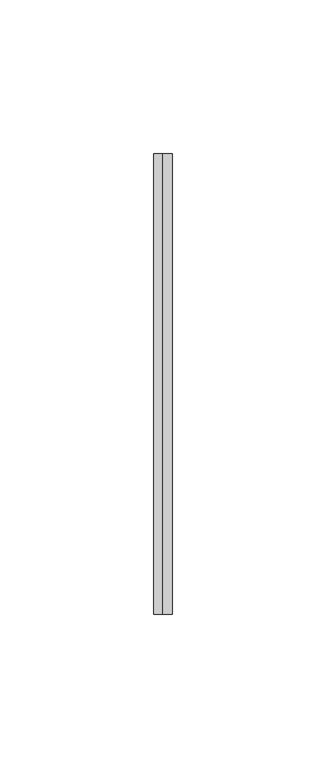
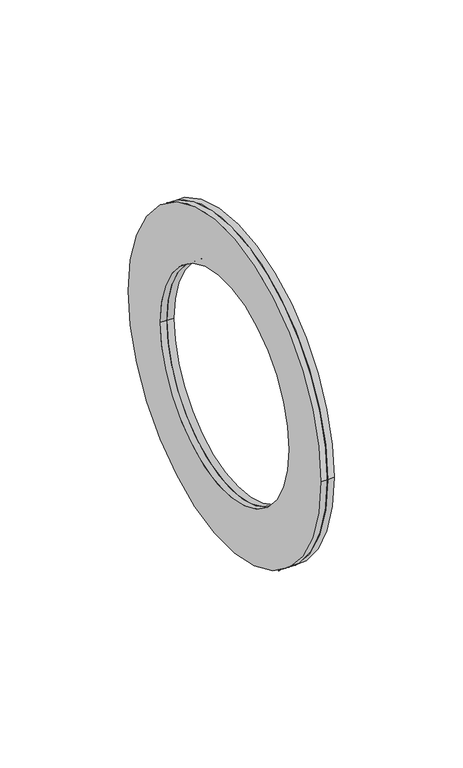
"""IFC4 building model written with IfcOpenShell, lengths in millimetres: duct fitting geometry, BL_ФланецВоздуховдов-Двойной_Круглый_БезКоннекторов : BL_ФланецВоздуховдов-Двойной_Круглый_БезКоннекторов."""

from ifc_helpers import new_model, si_unit, point, frame, frame_2d, origin, place, context, project, spatial, circle_curve, trimmed, segment, composite_curve, outline, extrude, source, transform, mapped, element, save


def duct_fitting_d655b9da(model_context):
    return source(origin(), model_context, "Body", "SweptSolid", [
        extrude(outline(composite_curve([segment(trimmed(circle_curve(frame_2d((-45.6742229, 0.0)), 75.0), [point((-120.6742229, 0.0))], [point((29.3257771, 0.0))], False, "CARTESIAN"), True, "CONTINUOUS"), segment(trimmed(circle_curve(frame_2d((-45.6742229, 0.0)), 75.0), [point((29.3257771, 0.0))], [point((-120.6742229, 0.0))], False, "CARTESIAN"), True, "CONTINUOUS")], self_intersect=False), holes=[composite_curve([segment(trimmed(circle_curve(frame_2d((-45.6742229, 0.0)), 50.0), [point((-95.6742229, 0.0))], [point((4.3257771, 0.0))], True, "CARTESIAN"), True, "CONTINUOUS"), segment(trimmed(circle_curve(frame_2d((-45.6742229, 0.0)), 50.0), [point((4.3257771, 0.0))], [point((-95.6742229, 0.0))], True, "CARTESIAN"), True, "CONTINUOUS")], self_intersect=False)]), frame((0.0, 0.0, 0.0), z_axis=(1.0, 0.0, 0.0), x_axis=(0.0, 1.0, 0.0)), (0.0, 0.0, 1.0), 3.0),
        extrude(outline(composite_curve([segment(trimmed(circle_curve(frame_2d((-45.6742229, 0.0)), 75.0), [point((-120.6742229, 0.0))], [point((29.3257771, 0.0))], False, "CARTESIAN"), True, "CONTINUOUS"), segment(trimmed(circle_curve(frame_2d((-45.6742229, 0.0)), 75.0), [point((29.3257771, 0.0))], [point((-120.6742229, 0.0))], False, "CARTESIAN"), True, "CONTINUOUS")], self_intersect=False), holes=[composite_curve([segment(trimmed(circle_curve(frame_2d((-45.6742229, 0.0)), 50.0), [point((-95.6742229, 0.0))], [point((4.3257771, 0.0))], True, "CARTESIAN"), True, "CONTINUOUS"), segment(trimmed(circle_curve(frame_2d((-45.6742229, 0.0)), 50.0), [point((4.3257771, 0.0))], [point((-95.6742229, 0.0))], True, "CARTESIAN"), True, "CONTINUOUS")], self_intersect=False)]), frame((-3.0, 0.0, 0.0), z_axis=(1.0, 0.0, 0.0), x_axis=(0.0, 1.0, 0.0)), (0.0, 0.0, 1.0), 3.0),
    ])


if __name__ == "__main__":
    model = new_model("IFC4")
    model_context = context("Model", 3, world=origin())
    ifc_project = project(units=[si_unit("LENGTHUNIT", "METRE", prefix="MILLI")], contexts=[model_context])
    site = spatial("IfcSite", under=ifc_project)
    building = spatial("IfcBuilding", under=site)
    placement = place(None, origin())
    duct_fitting_shape = duct_fitting_d655b9da(model_context)
    element("IfcDuctFitting", 1, ObjectType="BL_ФланецВоздуховдов-Двойной_Круглый_БезКоннекторов : BL_ФланецВоздуховдов-Двойной_Круглый_БезКоннекторов", at=placement, inside=building, context=model_context, shape_type="MappedRepresentation", body=[
        mapped(duct_fitting_shape, transform((0.0, 0.0, 0.0), x_axis=(1.0, 0.0, 0.0), y_axis=(0.0, 1.0, 0.0), z_axis=(0.0, 0.0, 1.0))),
    ])
    save(model, "model.ifc")
